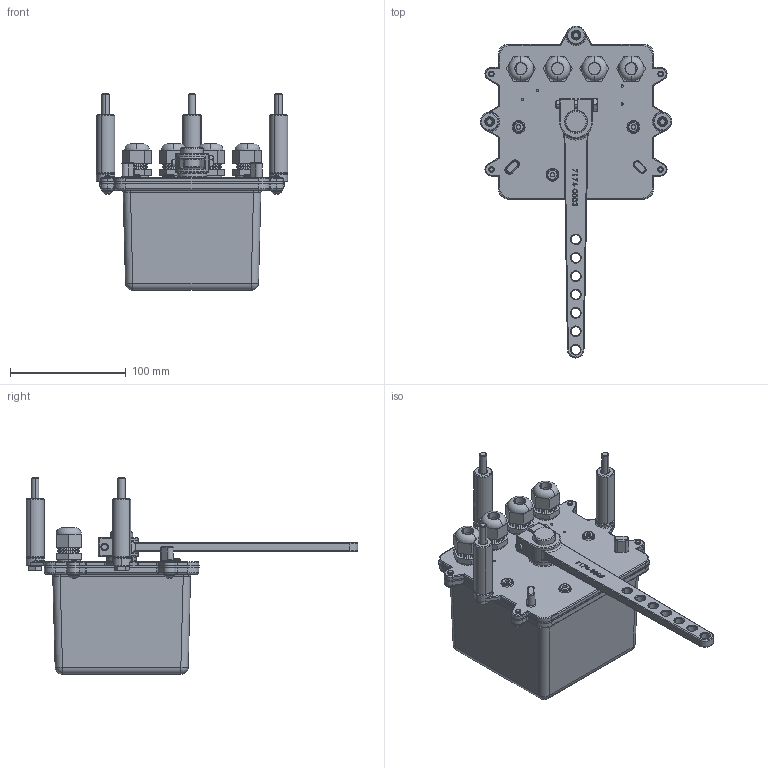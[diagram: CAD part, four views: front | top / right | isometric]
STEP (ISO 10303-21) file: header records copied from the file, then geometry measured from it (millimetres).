
FILE_DESCRIPTION (( 'STEP AP214' ), '1' );
FILE_NAME ('7174.STEP', '2019-07-25T21:49:42', ( '' ), ( '' ), 'SwSTEP 2.0', 'SolidWorks 2019', '' );
FILE_SCHEMA (( 'AUTOMOTIVE_DESIGN' ));
Length unit declared in the file: inch
Products named in the file (1): 7174
Bounding box: 165.1 x 286.54 x 169.8 mm (x, y, z)
Surface area: 155866.8 mm2 (no closed solid volume)
Topology: 0 solids, 46 shells, 851 faces, 2392 edges, 1540 vertices
Faces by surface type: plane 287, cylinder 252, cone 150, torus 89, bspline 61, sphere 12
Entity records: 46089 total; most frequent: CARTESIAN_POINT 13573, DIRECTION 4669, ORIENTED_EDGE 4099, EDGE_CURVE 2363, AXIS2_PLACEMENT_3D 1811, VERTEX_POINT 1540, LINE 1047, VECTOR 1047
